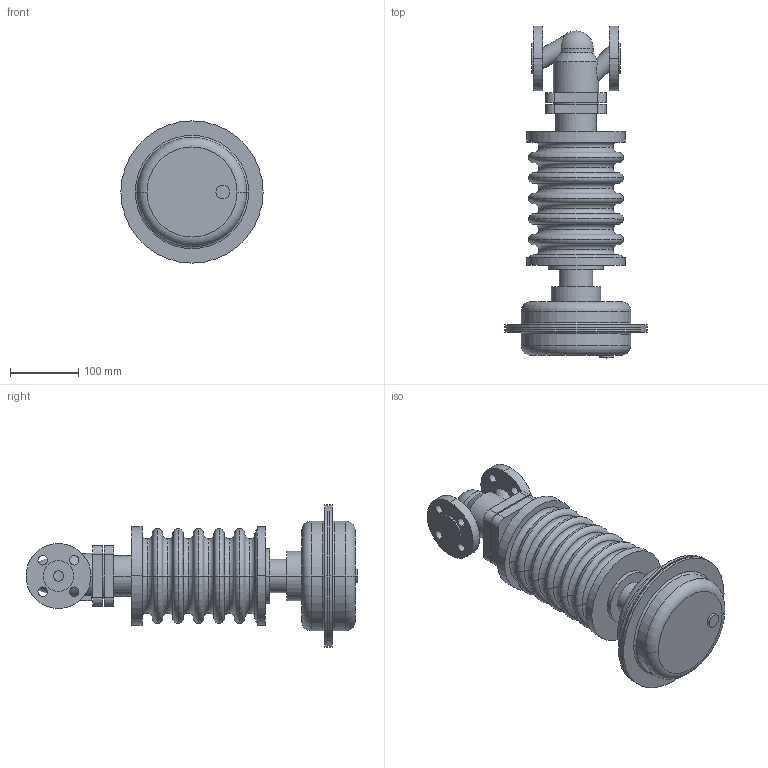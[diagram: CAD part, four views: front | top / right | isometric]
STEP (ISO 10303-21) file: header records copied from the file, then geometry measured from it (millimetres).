
FILE_DESCRIPTION(('OneSpaceDesigner STEP Export'),'2;1');
FILE_NAME('c000000548.stp','2006-08-30T 8:43:21',(''),(''),'OneSpace Designer STEP processor for AP203 (Solid Model)','OneSpace Designer 13.20A 18-Aug-2005 (C) CoCreate Software GmbH','');
FILE_SCHEMA(('CONFIG_CONTROL_DESIGN'));
Length unit declared in the file: millimetre
Products named in the file (1): 2
Bounding box: 208 x 485.5 x 208 mm (x, y, z)
Volume: 5073655.4 mm3; surface area: 352594.6 mm2
Topology: 1 solids, 1 shells, 176 faces, 402 edges, 251 vertices
Faces by surface type: cylinder 70, torus 54, plane 48, cone 2, sphere 2
Entity records: 4543 total; most frequent: CARTESIAN_POINT 887, ORIENTED_EDGE 800, DIRECTION 676, EDGE_CURVE 400, AXIS2_PLACEMENT_3D 274, VERTEX_POINT 251, EDGE_LOOP 217, FACE_OUTER_BOUND 176
